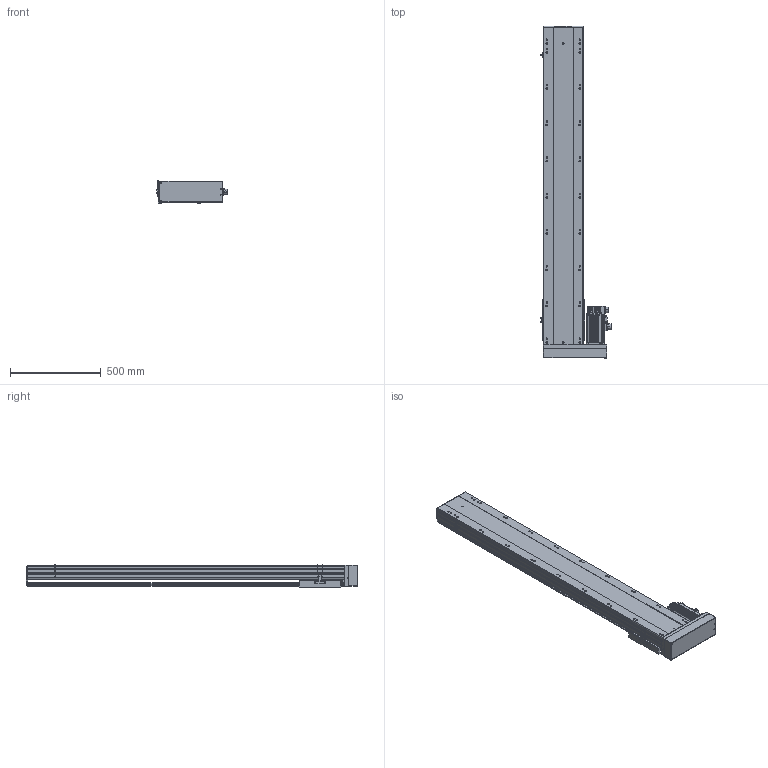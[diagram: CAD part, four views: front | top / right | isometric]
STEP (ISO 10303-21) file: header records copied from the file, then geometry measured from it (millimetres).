
FILE_DESCRIPTION (( 'STEP AP203' ), '1' );
FILE_NAME ('BTH22-L05-1450-BR-PCD115-M6-95.STEP', '2022-05-07T01:58:49', ( 'CXY' ), ( 'BT' ), 'SwSTEP 2.0', 'SolidWorks 2016', '' );
FILE_SCHEMA (( 'CONFIG_CONTROL_DESIGN' ));
Length unit declared in the file: millimetre
Products named in the file (7): BTH22-L05-1450-BR-PCD115-M6-95; BTH22-BR-菁釱; BTH22-BR-06-H100; BTH22-BR-04; BTH22-BR-HZ; BTH22-BR-01; PCD115
Assembly tree (8 placements, depth 2):
  BTH22-L05-1450-BR-PCD115-M6-95
    BTH22-BR-菁釱
    BTH22-BR-01
    BTH22-BR-04  x3
    BTH22-BR-HZ
    BTH22-BR-06-H100
    PCD115
Bounding box: 387.7 x 1832 x 122.7 mm (x, y, z)
Volume: 23939664.7 mm3; surface area: 3188818.2 mm2
Topology: 51 solids, 53 shells, 3118 faces, 8025 edges, 5004 vertices
Faces by surface type: cylinder 1392, plane 1234, bspline 387, cone 105
Entity records: 100285 total; most frequent: CARTESIAN_POINT 28295, ORIENTED_EDGE 15070, DIRECTION 14790, EDGE_CURVE 7535, AXIS2_PLACEMENT_3D 5428, VERTEX_POINT 4772, LINE 3934, VECTOR 3934
